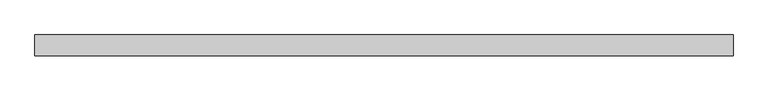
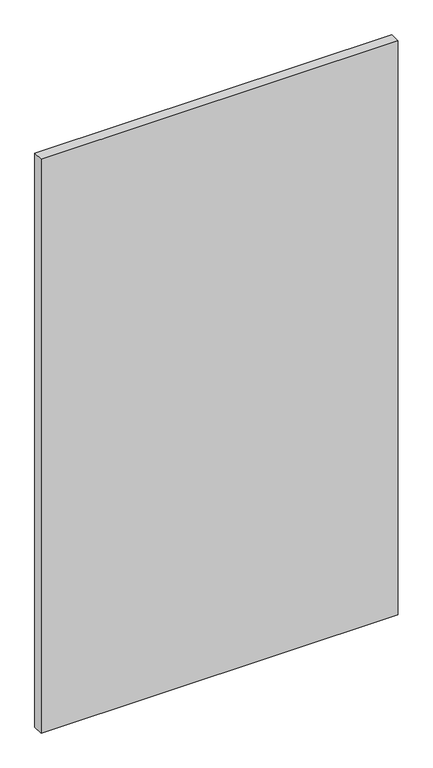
"""IFC4 building model written with IfcOpenShell, lengths in millimetres: plate geometry, Vitré."""

from ifc_helpers import new_model, si_unit, origin, origin_with_axes, place, context, project, spatial, polyline, outline, extrude, source, transform, mapped, element, save


def plate_bfb5c52d(model_context):
    return source(origin(), model_context, "Body", "SweptSolid", [
        extrude(outline(polyline([(-675.0625002, -20.0), (-675.0625002, 20.0), (675.0625002, 20.0), (675.0625002, -20.0), (-675.0625002, -20.0)])), origin_with_axes(), (0.0, 0.0, 1.0), 2292.625),
    ])


if __name__ == "__main__":
    model = new_model("IFC4")
    model_context = context("Model", 3, world=origin())
    ifc_project = project(units=[si_unit("LENGTHUNIT", "METRE", prefix="MILLI")], contexts=[model_context])
    site = spatial("IfcSite", under=ifc_project)
    building = spatial("IfcBuilding", under=site)
    placement = place(None, origin())
    plate_shape = plate_bfb5c52d(model_context)
    element("IfcPlate", 1, ObjectType="Vitré", at=placement, inside=building, context=model_context, shape_type="MappedRepresentation", body=[
        mapped(plate_shape, transform((0.0, 0.0, 0.0), x_axis=(1.0, 0.0, 0.0), y_axis=(0.0, 1.0, 0.0), z_axis=(0.0, 0.0, 1.0))),
    ])
    save(model, "model.ifc")
